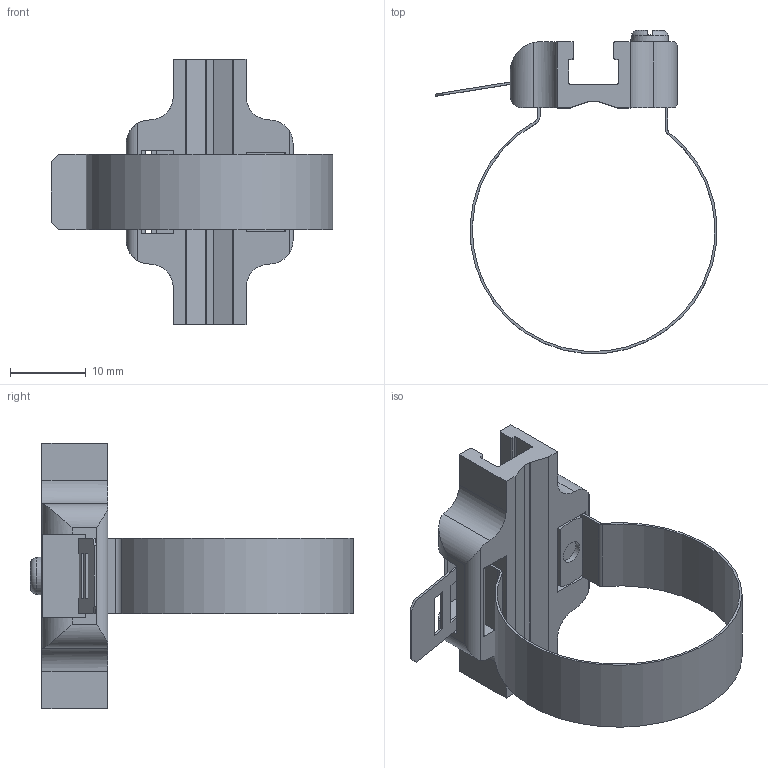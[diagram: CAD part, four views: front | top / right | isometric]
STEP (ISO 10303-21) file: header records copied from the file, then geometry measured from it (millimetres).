
FILE_DESCRIPTION( ( 'STEP AP214' ), ' ' );
FILE_NAME( 'p:/temp/worker_14/5764_3816/app_45_02017120213001333645892192d056f_000000_00_00_000000/format_0/SICK BEF-KHZ-RT1-130-1-Bestell-Nr.2077684 (32).stp', '2017-12-02T12:00:14', ( '' ), ( '' ), ' ', 'PARTsolutions', ' ' );
FILE_SCHEMA( ( 'AUTOMOTIVE_DESIGN { 1 0 10303 214 1 1 1 1 }' ) );
Length unit declared in the file: millimetre
Products named in the file (1): _SICK BEF-KHZ-RT1-130-1-Bestell-Nr.2077684 (32)
Bounding box: 37.19 x 42.6 x 35 mm (x, y, z)
Volume: 3179.2 mm3; surface area: 5219.7 mm2
Topology: 1 solids, 1 shells, 128 faces, 363 edges, 240 vertices
Faces by surface type: plane 77, cylinder 49, cone 1, torus 1
Full cylindrical faces by diameter (mm): 3 x2, 3.2 x1
Entity records: 5266 total; most frequent: CARTESIAN_POINT 847, ORIENTED_EDGE 712, DIRECTION 698, EDGE_CURVE 356, LINE 244, VECTOR 244, VERTEX_POINT 238, AXIS2_PLACEMENT_3D 227
